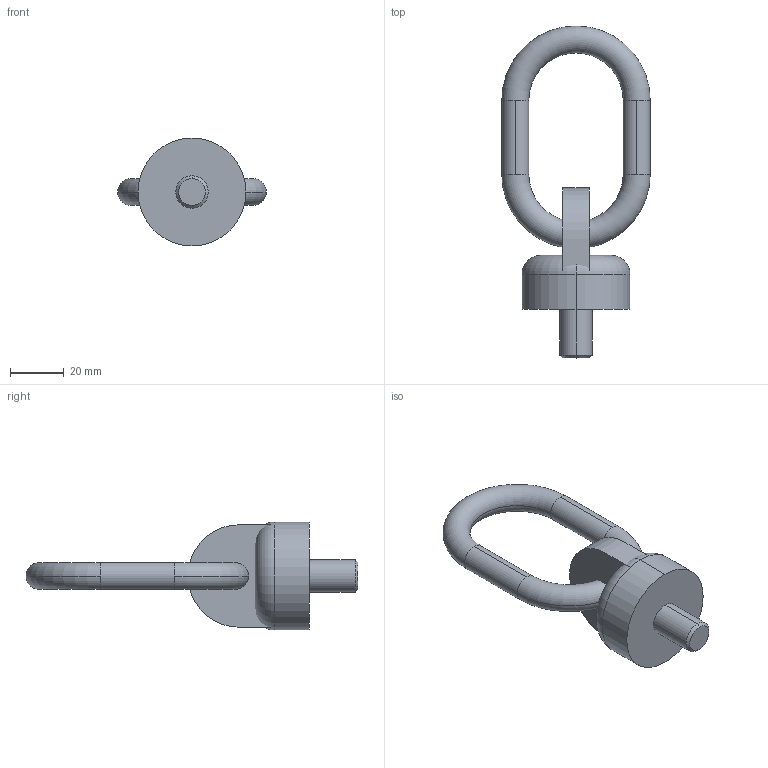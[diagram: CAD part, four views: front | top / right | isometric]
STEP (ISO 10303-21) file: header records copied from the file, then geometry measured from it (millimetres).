
FILE_DESCRIPTION (( 'STEP AP214' ), '1' );
FILE_NAME ('BruyRubio_BR1274__12.STEP', '2019-12-22T22:52:29', ( '' ), ( '' ), 'SwSTEP 2.0', 'SolidWorks 2017', '' );
FILE_SCHEMA (( 'AUTOMOTIVE_DESIGN' ));
Length unit declared in the file: millimetre
Products named in the file (1): BruyRubio_BR1274__12
Bounding box: 55 x 123 x 40 mm (x, y, z)
Volume: 51180.8 mm3; surface area: 16953.2 mm2
Topology: 8 solids, 8 shells, 42 faces, 75 edges, 48 vertices
Faces by surface type: plane 18, cylinder 16, torus 6, cone 2
Entity records: 1606 total; most frequent: DIRECTION 209, CARTESIAN_POINT 166, ORIENTED_EDGE 150, AXIS2_PLACEMENT_3D 91, EDGE_CURVE 75, UNCERTAINTY_MEASURE_WITH_UNIT 52, PRESENTATION_LAYER_ASSIGNMENT 51, SURFACE_STYLE_USAGE 51
